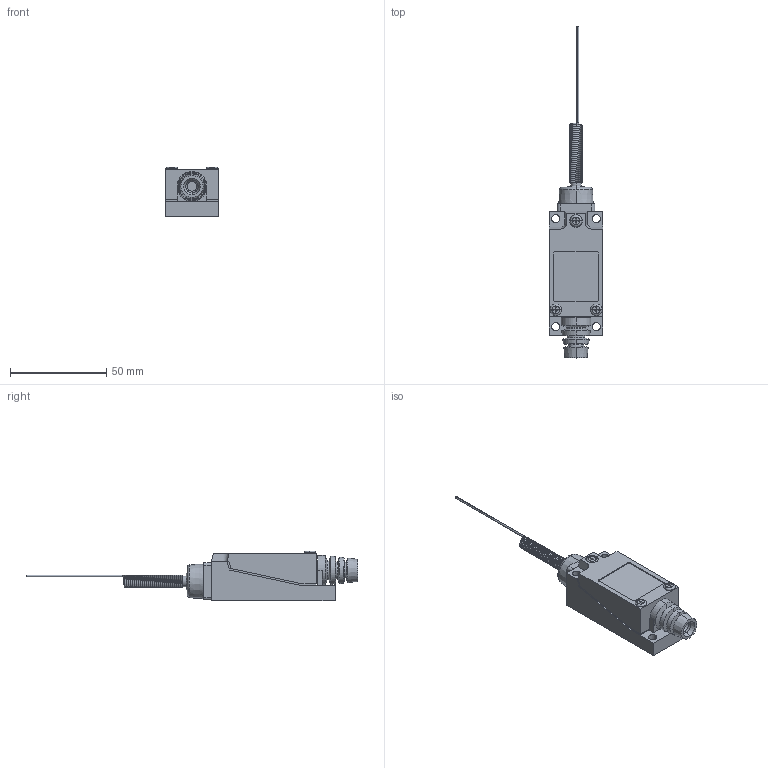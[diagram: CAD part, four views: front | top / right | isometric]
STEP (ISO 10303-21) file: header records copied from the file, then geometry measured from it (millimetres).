
FILE_DESCRIPTION (( 'STEP AP203' ), '1' );
FILE_NAME ('FM8169.STEP', '2018-06-20T16:26:18', ( '' ), ( '' ), 'SwSTEP 2.0', 'SolidWorks 2012', '' );
FILE_SCHEMA (( 'CONFIG_CONTROL_DESIGN' ));
Length unit declared in the file: millimetre
Products named in the file (1): FM8169
Bounding box: 28 x 172.38 x 25.9 mm (x, y, z)
Volume: 44587.4 mm3; surface area: 13096 mm2
Topology: 1 solids, 1 shells, 176 faces, 439 edges, 280 vertices
Faces by surface type: plane 92, cylinder 40, cone 26, torus 10, bspline 8
Entity records: 13374 total; most frequent: CARTESIAN_POINT 9024, DIRECTION 897, ORIENTED_EDGE 878, EDGE_CURVE 439, AXIS2_PLACEMENT_3D 305, LINE 287, VECTOR 287, VERTEX_POINT 280
